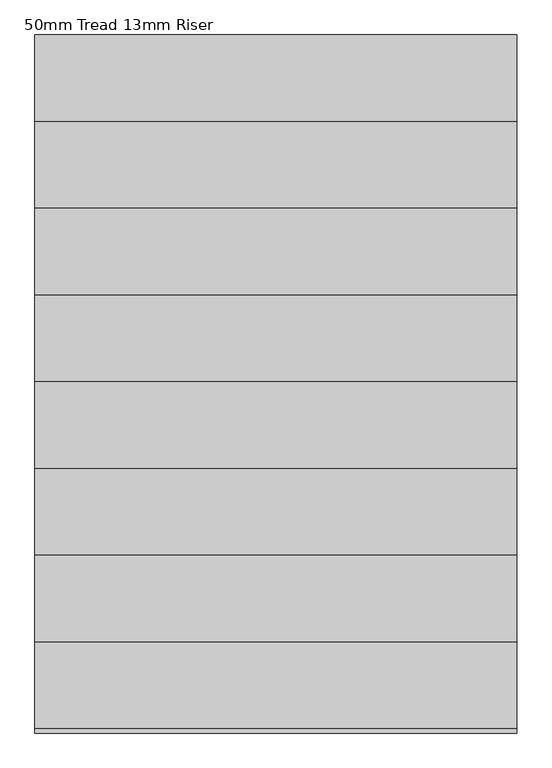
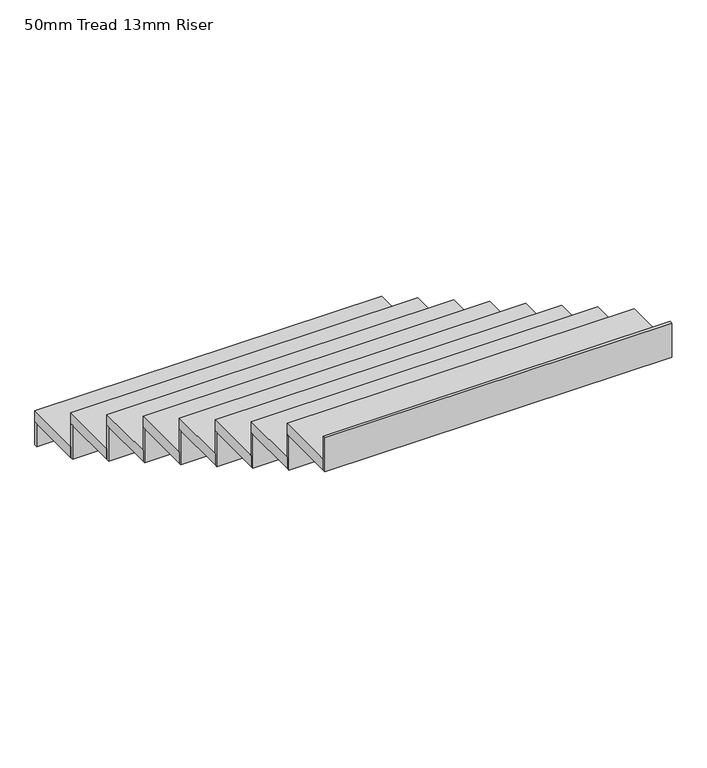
"""IFC4 building model written with IfcOpenShell, lengths in millimetres: stair flight geometry, 50mm Tread 13mm Riser."""

from ifc_helpers import new_model, si_unit, frame, origin, place, context, project, spatial, polyline, outline, extrude, source, transform, mapped, element, save


def stair_flight_50mm_tread_13mm_riser_5d985fe5(model_context):
    return source(origin(), model_context, "Body", "SweptSolid", [
        extrude(outline(polyline([(-44549.0423298, 11964.6808322), (-44549.0423298, 11977.1808322), (-43049.0423298, 11977.1808322), (-43049.0423298, 11964.6808322), (-44549.0423298, 11964.6808322)])), frame((0.0, 0.0, 42770.0), z_axis=(0.0, 0.0, 1.0), x_axis=(1.0, 0.0, 0.0)), (0.0, 0.0, 1.0), 105.5555556),
        extrude(outline(polyline([(-43049.0423298, 11707.1808322), (-44549.0423298, 11707.1808322), (-44549.0423298, 11977.1808322), (-43049.0423298, 11977.1808322), (-43049.0423298, 11707.1808322)])), frame((0.0, 0.0, 42875.5555556), z_axis=(0.0, 0.0, 1.0), x_axis=(1.0, 0.0, 0.0)), (0.0, 0.0, 1.0), 50.0),
        extrude(outline(polyline([(-44549.0423298, 11694.6808322), (-44549.0423298, 11707.1808322), (-43049.0423298, 11707.1808322), (-43049.0423298, 11694.6808322), (-44549.0423298, 11694.6808322)])), frame((0.0, 0.0, 42875.5555556), z_axis=(0.0, 0.0, 1.0), x_axis=(1.0, 0.0, 0.0)), (0.0, 0.0, 1.0), 155.5555556),
        extrude(outline(polyline([(-43049.0423298, 11437.1808322), (-44549.0423298, 11437.1808322), (-44549.0423298, 11707.1808322), (-43049.0423298, 11707.1808322), (-43049.0423298, 11437.1808322)])), frame((0.0, 0.0, 43031.1111111), z_axis=(0.0, 0.0, 1.0), x_axis=(1.0, 0.0, 0.0)), (0.0, 0.0, 1.0), 50.0),
        extrude(outline(polyline([(-44549.0423298, 11424.6808322), (-44549.0423298, 11437.1808322), (-43049.0423298, 11437.1808322), (-43049.0423298, 11424.6808322), (-44549.0423298, 11424.6808322)])), frame((0.0, 0.0, 43031.1111111), z_axis=(0.0, 0.0, 1.0), x_axis=(1.0, 0.0, 0.0)), (0.0, 0.0, 1.0), 155.5555556),
        extrude(outline(polyline([(-43049.0423298, 11167.1808322), (-44549.0423298, 11167.1808322), (-44549.0423298, 11437.1808322), (-43049.0423298, 11437.1808322), (-43049.0423298, 11167.1808322)])), frame((0.0, 0.0, 43186.6666667), z_axis=(0.0, 0.0, 1.0), x_axis=(1.0, 0.0, 0.0)), (0.0, 0.0, 1.0), 50.0),
        extrude(outline(polyline([(-44549.0423298, 11154.6808322), (-44549.0423298, 11167.1808322), (-43049.0423298, 11167.1808322), (-43049.0423298, 11154.6808322), (-44549.0423298, 11154.6808322)])), frame((0.0, 0.0, 43186.6666667), z_axis=(0.0, 0.0, 1.0), x_axis=(1.0, 0.0, 0.0)), (0.0, 0.0, 1.0), 155.5555556),
        extrude(outline(polyline([(-43049.0423298, 10897.1808322), (-44549.0423298, 10897.1808322), (-44549.0423298, 11167.1808322), (-43049.0423298, 11167.1808322), (-43049.0423298, 10897.1808322)])), frame((0.0, 0.0, 43342.2222222), z_axis=(0.0, 0.0, 1.0), x_axis=(1.0, 0.0, 0.0)), (0.0, 0.0, 1.0), 50.0),
        extrude(outline(polyline([(-44549.0423298, 10884.6808322), (-44549.0423298, 10897.1808322), (-43049.0423298, 10897.1808322), (-43049.0423298, 10884.6808322), (-44549.0423298, 10884.6808322)])), frame((0.0, 0.0, 43342.2222222), z_axis=(0.0, 0.0, 1.0), x_axis=(1.0, 0.0, 0.0)), (0.0, 0.0, 1.0), 155.5555556),
        extrude(outline(polyline([(-43049.0423298, 10627.1808322), (-44549.0423298, 10627.1808322), (-44549.0423298, 10897.1808322), (-43049.0423298, 10897.1808322), (-43049.0423298, 10627.1808322)])), frame((0.0, 0.0, 43497.7777778), z_axis=(0.0, 0.0, 1.0), x_axis=(1.0, 0.0, 0.0)), (0.0, 0.0, 1.0), 50.0),
        extrude(outline(polyline([(-44549.0423298, 10614.6808322), (-44549.0423298, 10627.1808322), (-43049.0423298, 10627.1808322), (-43049.0423298, 10614.6808322), (-44549.0423298, 10614.6808322)])), frame((0.0, 0.0, 43497.7777778), z_axis=(0.0, 0.0, 1.0), x_axis=(1.0, 0.0, 0.0)), (0.0, 0.0, 1.0), 155.5555556),
        extrude(outline(polyline([(-43049.0423298, 10357.1808322), (-44549.0423298, 10357.1808322), (-44549.0423298, 10627.1808322), (-43049.0423298, 10627.1808322), (-43049.0423298, 10357.1808322)])), frame((0.0, 0.0, 43653.3333333), z_axis=(0.0, 0.0, 1.0), x_axis=(1.0, 0.0, 0.0)), (0.0, 0.0, 1.0), 50.0),
        extrude(outline(polyline([(-44549.0423298, 10344.6808322), (-44549.0423298, 10357.1808322), (-43049.0423298, 10357.1808322), (-43049.0423298, 10344.6808322), (-44549.0423298, 10344.6808322)])), frame((0.0, 0.0, 43653.3333333), z_axis=(0.0, 0.0, 1.0), x_axis=(1.0, 0.0, 0.0)), (0.0, 0.0, 1.0), 155.5555556),
        extrude(outline(polyline([(-43049.0423298, 10087.1808322), (-44549.0423298, 10087.1808322), (-44549.0423298, 10357.1808322), (-43049.0423298, 10357.1808322), (-43049.0423298, 10087.1808322)])), frame((0.0, 0.0, 43808.8888889), z_axis=(0.0, 0.0, 1.0), x_axis=(1.0, 0.0, 0.0)), (0.0, 0.0, 1.0), 50.0),
        extrude(outline(polyline([(-44549.0423298, 10074.6808322), (-44549.0423298, 10087.1808322), (-43049.0423298, 10087.1808322), (-43049.0423298, 10074.6808322), (-44549.0423298, 10074.6808322)])), frame((0.0, 0.0, 43808.8888889), z_axis=(0.0, 0.0, 1.0), x_axis=(1.0, 0.0, 0.0)), (0.0, 0.0, 1.0), 155.5555556),
        extrude(outline(polyline([(-44549.0423298, 9804.6808322), (-44549.0423298, 9817.1808322), (-43049.0423298, 9817.1808322), (-43049.0423298, 9804.6808322), (-44549.0423298, 9804.6808322)])), frame((0.0, 0.0, 43964.4444444), z_axis=(0.0, 0.0, 1.0), x_axis=(1.0, 0.0, 0.0)), (0.0, 0.0, 1.0), 155.5555556),
        extrude(outline(polyline([(-43049.0423298, 9817.1808322), (-44549.0423298, 9817.1808322), (-44549.0423298, 10087.1808322), (-43049.0423298, 10087.1808322), (-43049.0423298, 9817.1808322)])), frame((0.0, 0.0, 43964.4444444), z_axis=(0.0, 0.0, 1.0), x_axis=(1.0, 0.0, 0.0)), (0.0, 0.0, 1.0), 50.0),
    ])


if __name__ == "__main__":
    model = new_model("IFC4")
    model_context = context("Model", 3, world=origin())
    ifc_project = project(units=[si_unit("LENGTHUNIT", "METRE", prefix="MILLI")], contexts=[model_context])
    site = spatial("IfcSite", under=ifc_project)
    building = spatial("IfcBuilding", under=site)
    placement = place(None, origin())
    stair_flight_50mm_tread_13mm_riser_shape = stair_flight_50mm_tread_13mm_riser_5d985fe5(model_context)
    element("IfcStairFlight", 1, ObjectType="50mm Tread 13mm Riser", at=placement, inside=building, context=model_context, shape_type="MappedRepresentation", body=[
        mapped(stair_flight_50mm_tread_13mm_riser_shape, transform((0.0, 0.0, 0.0), x_axis=(1.0, 0.0, 0.0), y_axis=(0.0, 1.0, 0.0), z_axis=(0.0, 0.0, 1.0))),
    ])
    save(model, "model.ifc")
